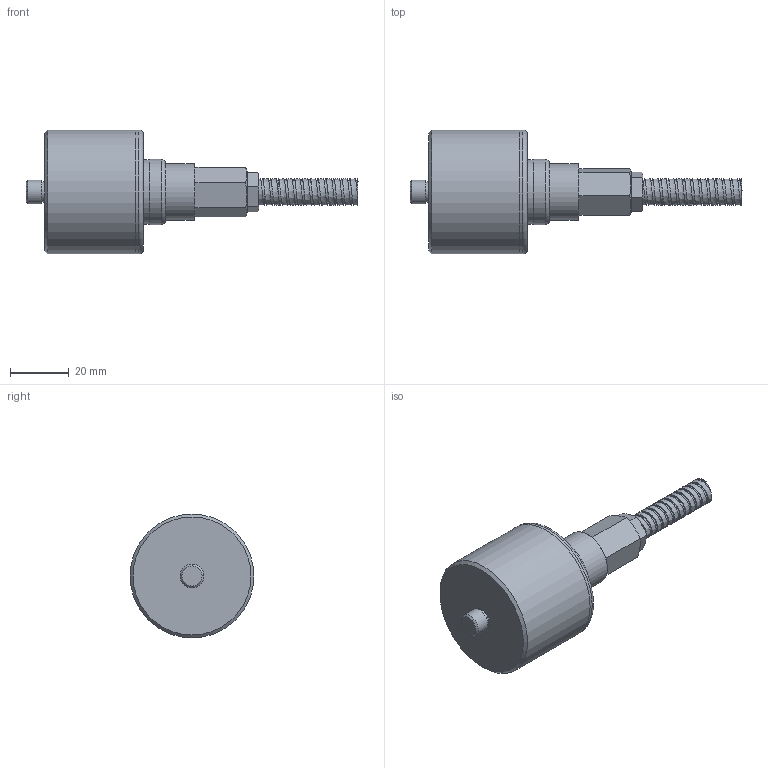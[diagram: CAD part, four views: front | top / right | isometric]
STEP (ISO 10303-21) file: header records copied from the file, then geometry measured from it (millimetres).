
FILE_DESCRIPTION(/* description */ (''),/* implementation_level */ '2;1');
FILE_NAME(/* name */ 'Z:\Engineering\Drawings\3D Library\Assemblies\Website\Triaxial Top\Premium\HS-173 Round FEP Conduit\HS-173RXXX42C08.stp',/* time_stamp */ '2023-03-25T19:42:40+00:00',/* author */ ('Ricardo.Peneda'),/* organization */ (''),/* preprocessor_version */ 'ST-DEVELOPER v18.1',/* originating_system */ 'Autodesk Inventor 2021',/* authorisation */ '');
FILE_SCHEMA (('AUTOMOTIVE_DESIGN { 1 0 10303 214 3 1 1 }'));
Length unit declared in the file: inch
Products named in the file (1): HS-173RXXX42C08_Shrinkwrap_1
Bounding box: 112.59 x 42 x 42 mm (x, y, z)
Volume: 53727.4 mm3; surface area: 19270 mm2
Topology: 7 solids, 7 shells, 117 faces, 298 edges, 216 vertices
Faces by surface type: plane 48, cylinder 31, cone 25, bspline 8, torus 3, sphere 2
Full cylindrical faces by diameter (mm): 5 x1, 5.359 x1, 6.35 x1, 6.5 x1, 6.8 x1, 7 x1, 7.5 x1, 7.9 x2, 8 x1, 8.6 x1, 9 x1, 10.2 x1, 11.959 x1, 12 x3, 14 x2, 15 x2, 18 x1, 19 x1, 19.95 x1, 20 x1, 22 x1, 22.2 x1, 40 x1, 42 x2
Entity records: 17813 total; most frequent: CARTESIAN_POINT 14729, DIRECTION 632, ORIENTED_EDGE 592, EDGE_CURVE 296, AXIS2_PLACEMENT_3D 273, VERTEX_POINT 216, CIRCLE 163, EDGE_LOOP 146
